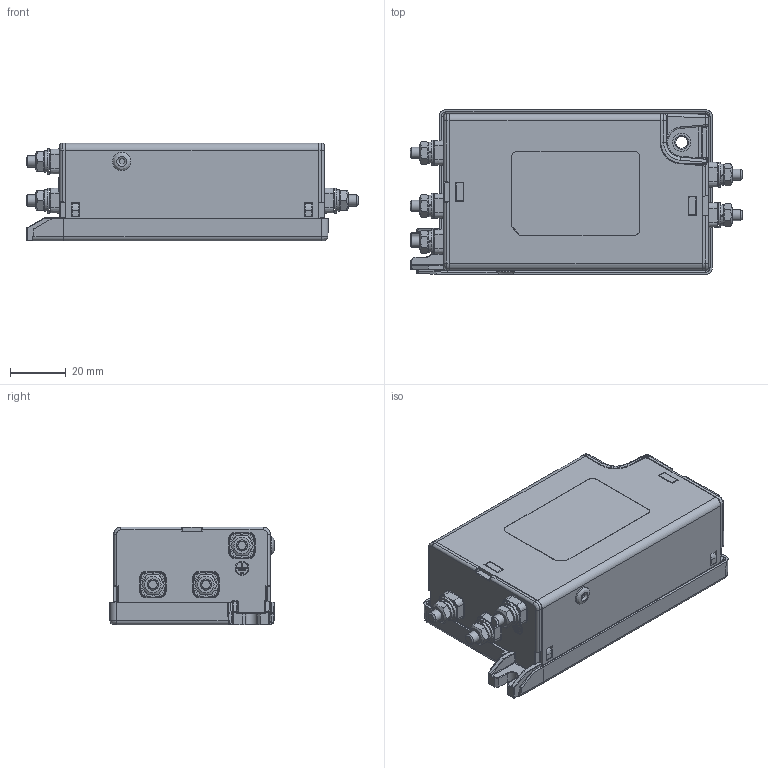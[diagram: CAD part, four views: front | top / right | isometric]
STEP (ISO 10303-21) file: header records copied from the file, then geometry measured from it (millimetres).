
FILE_DESCRIPTION(/* description */ (''),/* implementation_level */ '2;1');
FILE_NAME(/* name */ 'C:\Users\Christian.Ackermann\OneDrive - Schaffner EMV AG\Desktop\UMA_customerSTEP\FN250x-xx-08.stp',/* time_stamp */ '2021-08-24T09:29:58+02:00',/* author */ ('Christian.Ackermann'),/* organization */ (''),/* preprocessor_version */ 'ST-DEVELOPER v18.1',/* originating_system */ 'Autodesk Inventor 2020',/* authorisation */ '');
FILE_SCHEMA (('AUTOMOTIVE_DESIGN { 1 0 10303 214 3 1 1 }'));
Products named in the file (1): FN250x-xx-08
Bounding box: 118.9 x 59 x 35.06 mm (x, y, z)
Volume: 182677.2 mm3; surface area: 36526 mm2
Topology: 1 solids, 1 shells, 1808 faces, 4531 edges, 2755 vertices
Faces by surface type: cylinder 724, plane 671, bspline 212, torus 79, sphere 76, cone 46
Full cylindrical faces by diameter (mm): 2 x1, 2.8 x4, 4 x10, 4.2 x1, 4.3 x5, 6.111 x1, 6.4 x2, 6.5 x1, 8.39 x2, 8.74 x3, 9 x5
Entity records: 60734 total; most frequent: CARTESIAN_POINT 15298, DIRECTION 9380, ORIENTED_EDGE 9044, EDGE_CURVE 4522, AXIS2_PLACEMENT_3D 3465, VERTEX_POINT 2755, LINE 2450, VECTOR 2450
